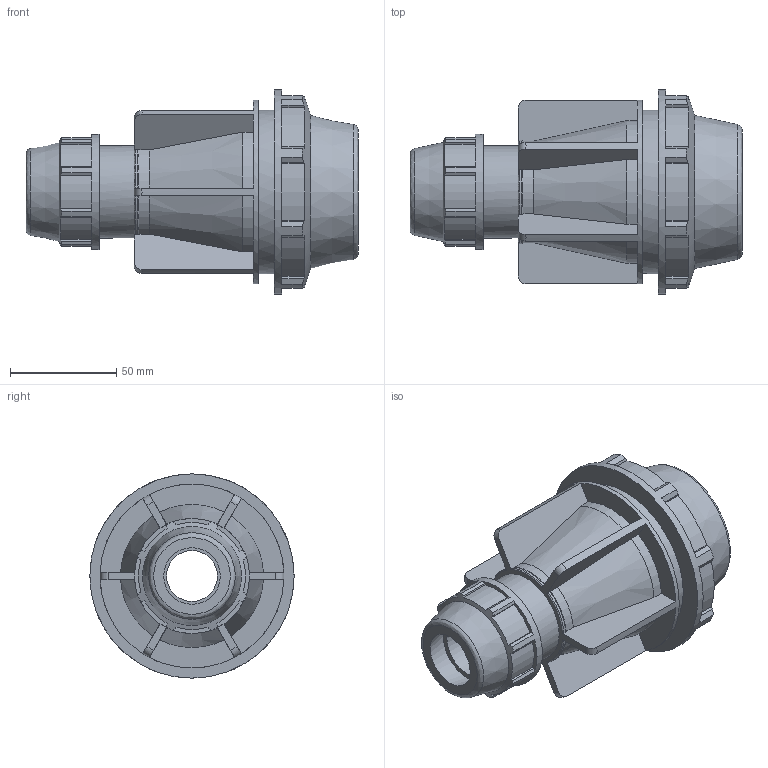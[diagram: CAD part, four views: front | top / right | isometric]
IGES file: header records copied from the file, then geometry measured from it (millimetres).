
Global section: file name: 0711M0015007.ipt; native system: Autodesk Inventor 2019; preprocessor: unknown; author: KIM; date: 20210826.124702; units: inch
Bounding box: 156 x 96.01 x 96.01 mm (x, y, z)
Volume: 312212.9 mm3; surface area: 71901.4 mm2
Topology: 1 solids, 1 shells, 212 faces, 623 edges, 420 vertices
Faces by surface type: plane 137, cylinder 45, revolution 20, cone 10
Full cylindrical faces by diameter (mm): 43.282 x1, 54.102 x1, 76.81 x1, 86.411 x1, 96.012 x1
